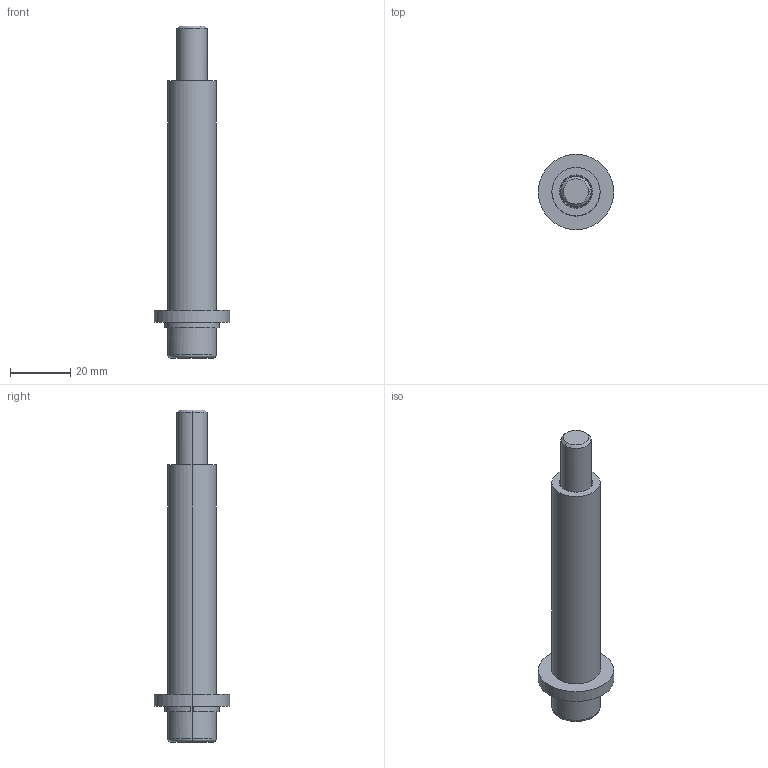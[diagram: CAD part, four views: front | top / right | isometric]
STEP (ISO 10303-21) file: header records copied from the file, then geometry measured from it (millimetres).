
FILE_DESCRIPTION(('CATIA V5 STEP Exchange'),'2;1');
FILE_NAME('C:\Users\Utente\Desktop\IO LAVORO\3D X SITO CF\X SITO\M312-03\M312-03-10.stp','2020-12-04T19:21:46+00:00',('none'),('none'),'CATIA Version 5 Release 20 GA (IN-10)','CATIA V5 STEP AP203','none');
FILE_SCHEMA(('CONFIG_CONTROL_DESIGN'));
Length unit declared in the file: millimetre
Products named in the file (1): M312-03-10
Bounding box: 25 x 25 x 110 mm (x, y, z)
Volume: 19508.7 mm3; surface area: 11840.6 mm2
Topology: 1 solids, 1 shells, 50 faces, 114 edges, 69 vertices
Faces by surface type: plane 22, cylinder 16, torus 8, cone 4
Entity records: 1574 total; most frequent: CARTESIAN_POINT 450, ORIENTED_EDGE 224, DIRECTION 197, EDGE_CURVE 112, AXIS2_PLACEMENT_3D 96, VERTEX_POINT 69, EDGE_LOOP 57, VECTOR 52
